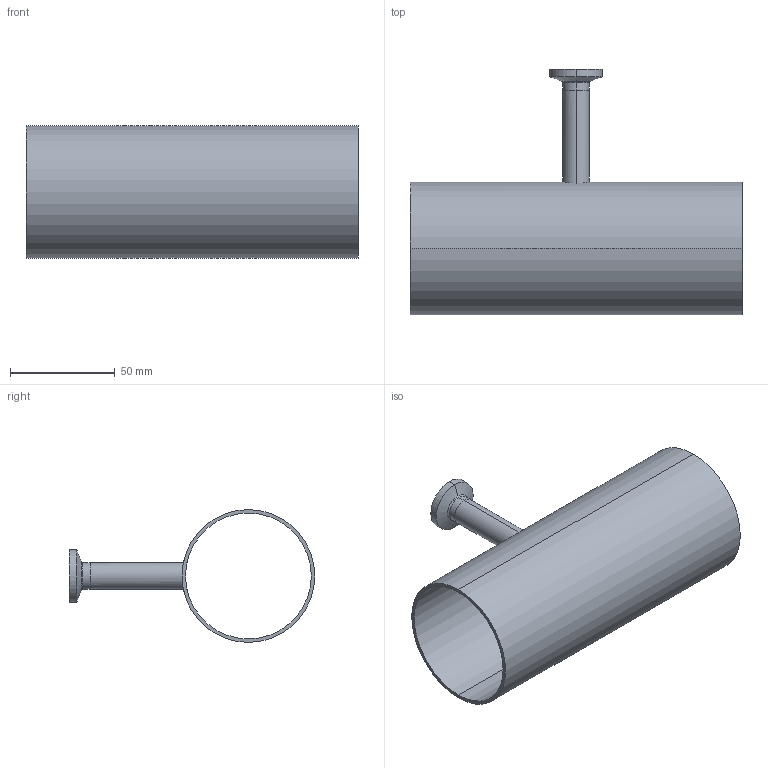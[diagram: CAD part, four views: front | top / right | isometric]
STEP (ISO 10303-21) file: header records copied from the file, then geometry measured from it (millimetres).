
FILE_DESCRIPTION (( 'STEP AP214' ), '1' );
FILE_NAME ('TE7RWWC6L2.5x.5-...STEP', '2016-05-23T08:20:57', ( 'eran' ), ( '' ), 'SwSTEP 2.0', 'SolidWorks 2016', '' );
FILE_SCHEMA (( 'AUTOMOTIVE_DESIGN' ));
Length unit declared in the file: millimetre
Products named in the file (1): TE7RWWC6L2.5x.5-..
Bounding box: 158.8 x 117.45 x 63.5 mm (x, y, z)
Volume: 55218.8 mm3; surface area: 67056.3 mm2
Topology: 2 solids, 2 shells, 34 faces, 82 edges, 54 vertices
Faces by surface type: cylinder 16, bspline 8, plane 6, cone 4
Entity records: 1307 total; most frequent: CARTESIAN_POINT 451, DIRECTION 182, ORIENTED_EDGE 164, EDGE_CURVE 82, AXIS2_PLACEMENT_3D 81, VERTEX_POINT 54, CIRCLE 54, EDGE_LOOP 42
